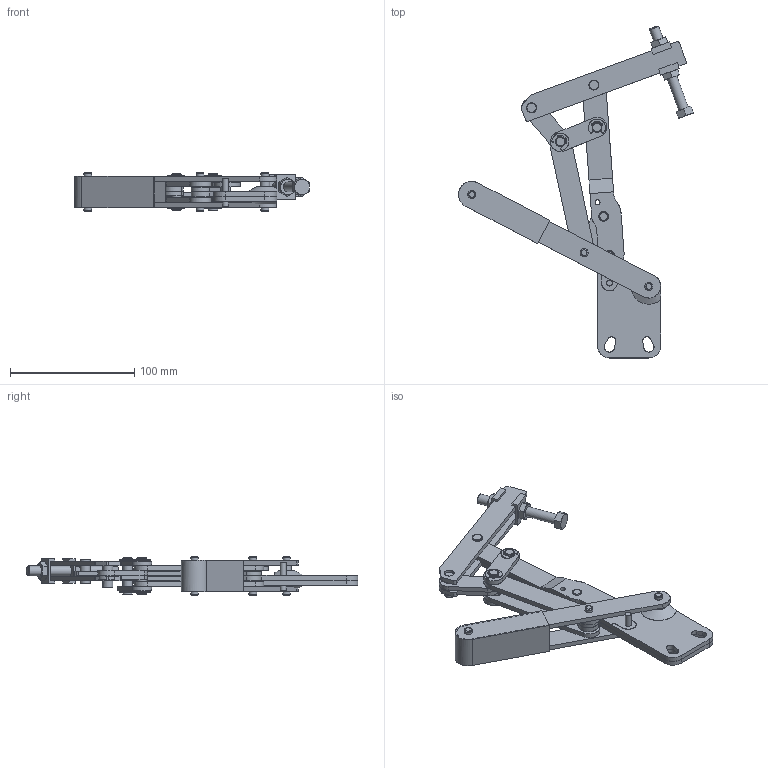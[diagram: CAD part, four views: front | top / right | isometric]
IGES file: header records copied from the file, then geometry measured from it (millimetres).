
Start section:  Autodesk DirectConnect version 7.0.27.0 ---- IGES version 5.3
Global section: file name: C:\Users\Nick\Desktop\Knu-Vise WIP\DTV-Series\DTS-400\3D\DTS-400 Open.igs; native system: Autodesk DirectConnect 7.0.27.0; preprocessor: 7.0.27.0; author: Nick; organization: Unknown; date: 20150818.103748; units: inch
Bounding box: 189.08 x 267.2 x 30.96 mm (x, y, z)
Surface area: 107150.4 mm2 (no closed solid volume)
Topology: 0 solids, 0 shells, 526 faces, 3512 edges, 3479 vertices
Faces by surface type: bspline 526
